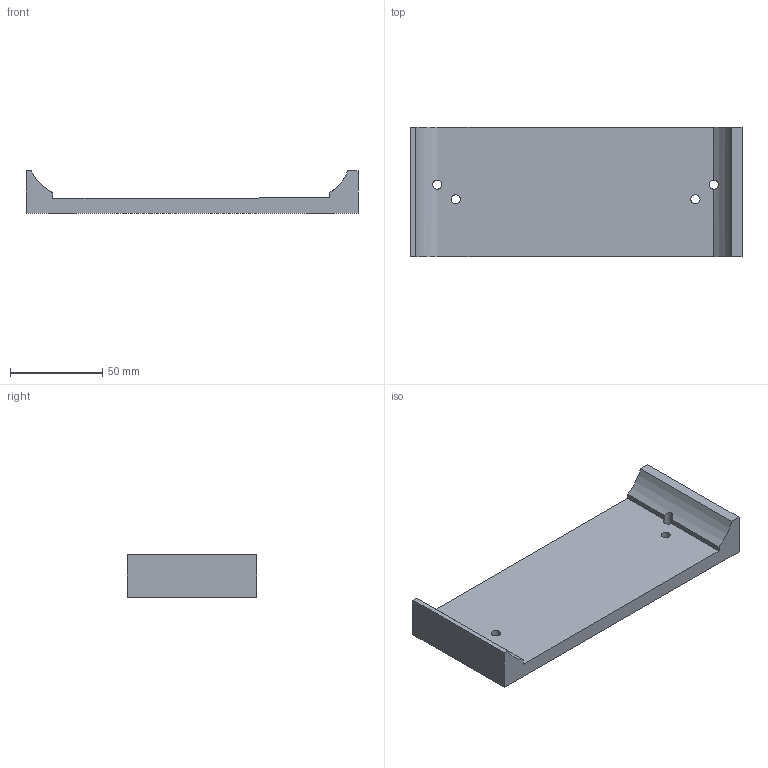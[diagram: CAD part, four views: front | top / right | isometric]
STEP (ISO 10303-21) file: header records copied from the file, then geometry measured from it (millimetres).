
FILE_DESCRIPTION(/* description */ (''),/* implementation_level */ '2;1');
FILE_NAME(/* name */ 'Base.step',/* time_stamp */ '2025-08-08T11:57:19-04:00',/* author */ (''),/* organization */ (''),/* preprocessor_version */ 'ST-DEVELOPER v20.1',/* originating_system */ 'Autodesk Translation Framework v14.10.0.0',/* authorisation */ '');
FILE_SCHEMA (('AUTOMOTIVE_DESIGN { 1 0 10303 214 3 1 1 }'));
Length unit declared in the file: millimetre
Products named in the file (1): 2025-07-10-13-42-55-262
Bounding box: 180 x 70 x 23 mm (x, y, z)
Volume: 122651.9 mm3; surface area: 33514.8 mm2
Topology: 1 solids, 1 shells, 18 faces, 54 edges, 36 vertices
Faces by surface type: plane 12, cylinder 6
Full cylindrical faces by diameter (mm): 5 x4
Entity records: 694 total; most frequent: CARTESIAN_POINT 149, ORIENTED_EDGE 108, DIRECTION 102, EDGE_CURVE 54, LINE 38, VECTOR 38, VERTEX_POINT 36, AXIS2_PLACEMENT_3D 32
